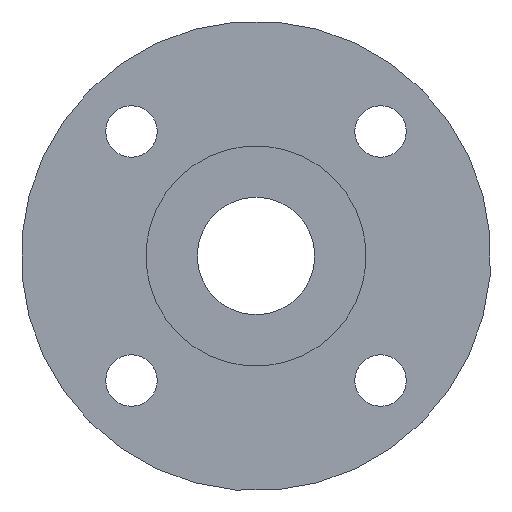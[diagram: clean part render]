
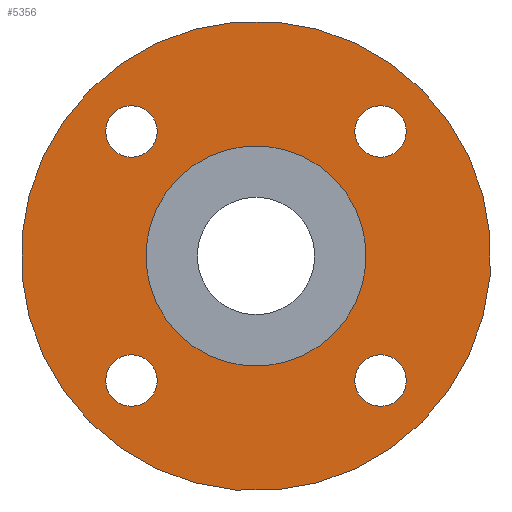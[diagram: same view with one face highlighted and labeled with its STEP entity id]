
A CAD part, left-side view. The second image highlights one B-rep face of the part: STEP entity #5356.
In plain terms, the highlighted planar face has unit normal (-1, 0, 0).
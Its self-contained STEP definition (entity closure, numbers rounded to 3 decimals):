
#113=CIRCLE('',#5698,7.5);
#115=CIRCLE('',#5703,16.);
#116=CIRCLE('',#5705,1.75);
#117=CIRCLE('',#5706,1.75);
#118=CIRCLE('',#5707,1.75);
#119=CIRCLE('',#5708,1.75);
#1618=ORIENTED_EDGE('',*,*,#3158,.T.);
#1619=ORIENTED_EDGE('',*,*,#3159,.T.);
#1620=ORIENTED_EDGE('',*,*,#3160,.T.);
#1621=ORIENTED_EDGE('',*,*,#3161,.T.);
#1622=ORIENTED_EDGE('',*,*,#3155,.F.);
#1623=ORIENTED_EDGE('',*,*,#3157,.F.);
#3155=EDGE_CURVE('',#3927,#3927,#113,.F.);
#3157=EDGE_CURVE('',#3929,#3929,#115,.T.);
#3158=EDGE_CURVE('',#3930,#3930,#116,.T.);
#3159=EDGE_CURVE('',#3931,#3931,#117,.T.);
#3160=EDGE_CURVE('',#3932,#3932,#118,.T.);
#3161=EDGE_CURVE('',#3933,#3933,#119,.T.);
#3927=VERTEX_POINT('',#8467);
#3929=VERTEX_POINT('',#8474);
#3930=VERTEX_POINT('',#8477);
#3931=VERTEX_POINT('',#8479);
#3932=VERTEX_POINT('',#8481);
#3933=VERTEX_POINT('',#8483);
#4386=EDGE_LOOP('',(#1618));
#4387=EDGE_LOOP('',(#1619));
#4388=EDGE_LOOP('',(#1620));
#4389=EDGE_LOOP('',(#1621));
#4390=EDGE_LOOP('',(#1622));
#4391=EDGE_LOOP('',(#1623));
#4776=FACE_BOUND('',#4386,.T.);
#4777=FACE_BOUND('',#4387,.T.);
#4778=FACE_BOUND('',#4388,.T.);
#4779=FACE_BOUND('',#4389,.T.);
#4780=FACE_BOUND('',#4390,.T.);
#4781=FACE_BOUND('',#4391,.T.);
#5114=PLANE('',#5704);
#5356=ADVANCED_FACE('',(#4776,#4777,#4778,#4779,#4780,#4781),#5114,.F.);
#5698=AXIS2_PLACEMENT_3D('',#8466,#6182,#6183);
#5703=AXIS2_PLACEMENT_3D('',#8473,#6192,#6193);
#5704=AXIS2_PLACEMENT_3D('',#8475,#6194,#6195);
#5705=AXIS2_PLACEMENT_3D('',#8476,#6196,#6197);
#5706=AXIS2_PLACEMENT_3D('',#8478,#6198,#6199);
#5707=AXIS2_PLACEMENT_3D('',#8480,#6200,#6201);
#5708=AXIS2_PLACEMENT_3D('',#8482,#6202,#6203);
#6182=DIRECTION('',(1.,0.,0.));
#6183=DIRECTION('',(0.,0.707,-0.707));
#6192=DIRECTION('',(1.,0.,0.));
#6193=DIRECTION('',(0.,0.707,-0.707));
#6194=DIRECTION('',(1.,0.,0.));
#6195=DIRECTION('',(0.,0.707,-0.707));
#6196=DIRECTION('',(1.,0.,0.));
#6197=DIRECTION('',(0.,0.707,-0.707));
#6198=DIRECTION('',(1.,0.,0.));
#6199=DIRECTION('',(0.,0.707,-0.707));
#6200=DIRECTION('',(1.,0.,0.));
#6201=DIRECTION('',(0.,0.707,-0.707));
#6202=DIRECTION('',(1.,0.,0.));
#6203=DIRECTION('',(0.,0.707,-0.707));
#8466=CARTESIAN_POINT('',(7.,0.,0.));
#8467=CARTESIAN_POINT('',(7.,5.303,-5.303));
#8473=CARTESIAN_POINT('',(7.,0.,0.));
#8474=CARTESIAN_POINT('',(7.,11.314,-11.314));
#8475=CARTESIAN_POINT('',(7.,0.,0.));
#8476=CARTESIAN_POINT('',(7.,8.485,-8.485));
#8477=CARTESIAN_POINT('',(7.,9.723,-9.723));
#8478=CARTESIAN_POINT('',(7.,-8.485,-8.485));
#8479=CARTESIAN_POINT('',(7.,-7.248,-9.723));
#8480=CARTESIAN_POINT('',(7.,-8.485,8.485));
#8481=CARTESIAN_POINT('',(7.,-7.248,7.248));
#8482=CARTESIAN_POINT('',(7.,8.485,8.485));
#8483=CARTESIAN_POINT('',(7.,9.723,7.248));
